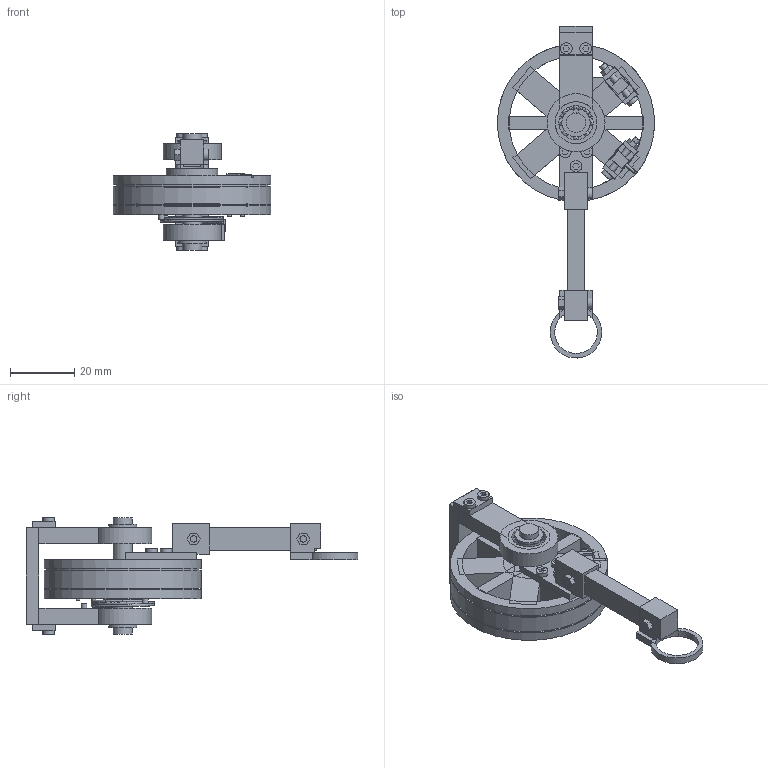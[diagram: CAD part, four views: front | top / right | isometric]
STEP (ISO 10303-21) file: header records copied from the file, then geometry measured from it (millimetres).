
FILE_DESCRIPTION(('Open CASCADE Model'),'2;1');
FILE_NAME('Open CASCADE Shape Model','2026-11-03T08:07:00',('Author'),( 'Open CASCADE'),'Open CASCADE STEP processor 7.9','Open CASCADE 7.9' ,'Unknown');
FILE_SCHEMA(('AUTOMOTIVE_DESIGN { 1 0 10303 214 1 1 1 1 }'));
Length unit declared in the file: millimetre
Products named in the file (44): wood_leg_joint; j_rear_fork; j_front_fork; j_bridge; j_bearing_0; j_bearing_1; j_wheel; j_axle; j_cross_pin; j_collar_0; j_axial_shim_0; j_collar_1; j_axial_shim_1; j_upper_cap; j_wood; j_lower_cap; j_cap_bolt_0; j_cap_bolt_1; j_cap_bolt_2; j_wood_pin_0; j_wood_nut_0; j_wood_pin_1; j_wood_nut_1; j_anchor_frame_0; j_anchor_block_0; j_anchor_screw_0; j_anchor_nut_0; j_anchor_mount_0_0; j_anchor_mount_0_1; j_anchor_tail_0; j_anchor_frame_1; j_anchor_block_1; j_anchor_screw_1; j_anchor_nut_1; j_anchor_mount_1_0; j_anchor_mount_1_1; j_anchor_tail_1; j_optional_spring; j_spring_fixed_pin; j_spring_moving_pin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
Assembly tree (43 placements, depth 2):
  wood_leg_joint
    j_rear_fork
    j_front_fork
    j_bridge
    j_bearing_0
    j_bearing_1
    j_wheel
    j_axle
    j_cross_pin
    j_collar_0
    j_axial_shim_0
    j_collar_1
    j_axial_shim_1
    j_upper_cap
    j_wood
    j_lower_cap
    j_cap_bolt_0
    j_cap_bolt_1
    j_cap_bolt_2
    j_wood_pin_0
    j_wood_nut_0
    j_wood_pin_1
    j_wood_nut_1
    j_anchor_frame_0
    j_anchor_block_0
    j_anchor_screw_0
    j_anchor_nut_0
    j_anchor_mount_0_0
    j_anchor_mount_0_1
    j_anchor_tail_0
    j_anchor_frame_1
    j_anchor_block_1
    j_anchor_screw_1
    j_anchor_nut_1
    j_anchor_mount_1_0
    j_anchor_mount_1_1
    j_anchor_tail_1
    j_optional_spring
    j_spring_fixed_pin
    j_spring_moving_pin
    j_fork_screw_0
    j_fork_screw_1
    j_fork_screw_2
    j_fork_screw_3
Bounding box: 48.8 x 102.99 x 36.6 mm (x, y, z)
Volume: 25663.5 mm3; surface area: 21667.5 mm2
Topology: 61 solids, 61 shells, 691 faces, 1524 edges, 949 vertices
Faces by surface type: plane 527, cylinder 138, sphere 16, torus 8, bspline 2
Full cylindrical faces by diameter (mm): 0.66 x1, 0.8 x2, 1.04 x1, 1.1 x2, 1.2 x8, 1.3 x4, 1.6 x4, 1.8 x2, 1.9 x1, 2 x17, 2.1 x9, 2.16 x4, 2.2 x15, 3.6 x11, 5.4 x2, 6 x5, 6.05 x1, 6.1 x2, 8.5 x6, 10.7 x4, 13 x4, 48.8 x3
Entity records: 40923 total; most frequent: CARTESIAN_POINT 8167, DIRECTION 6073, LINE 3333, VECTOR 3333, ORIENTED_EDGE 3016, PCURVE 3016, DEFINITIONAL_REPRESENTATION 3016, EDGE_CURVE 1508
